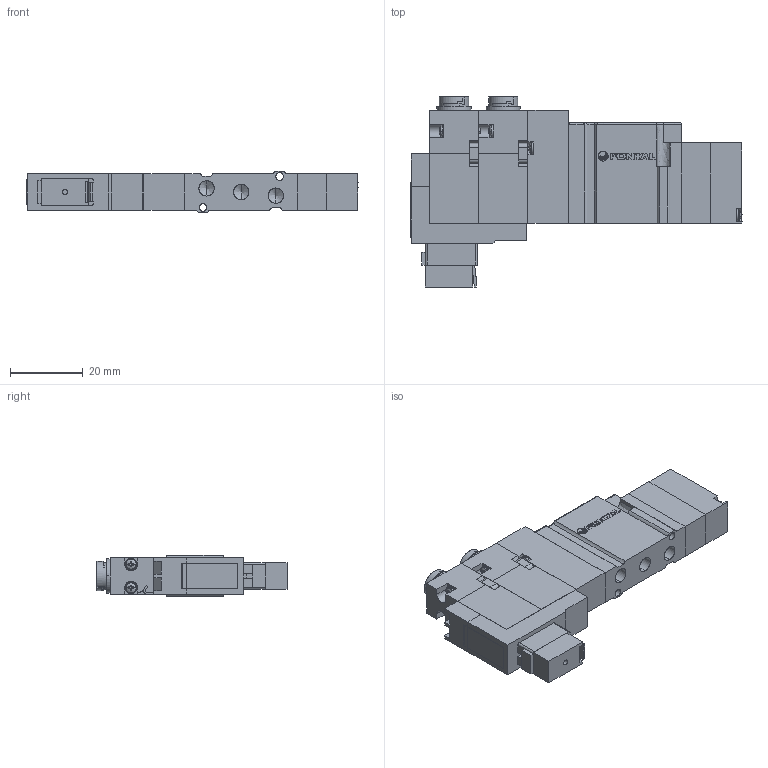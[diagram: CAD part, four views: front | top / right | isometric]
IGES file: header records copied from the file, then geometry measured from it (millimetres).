
Start section: SolidWorks IGES file using analytic representation for surfaces
Global section: file name: C:\Users\Toshiba\Desktop\A05FD35#-#Q-#-E.IGS; native system: SolidWorks 2014; preprocessor: SolidWorks 2014; author: Toshiba; date: 160125.144751; units: millimetre
Bounding box: 91 x 52.1 x 11.4 mm (x, y, z)
Surface area: 16476.3 mm2 (no closed solid volume)
Topology: 0 solids, 0 shells, 914 faces, 7470 edges, 7436 vertices
Faces by surface type: bspline 626, revolution 288
